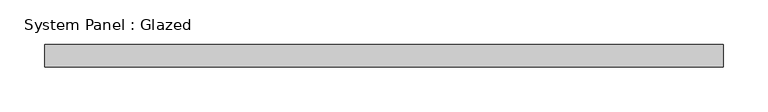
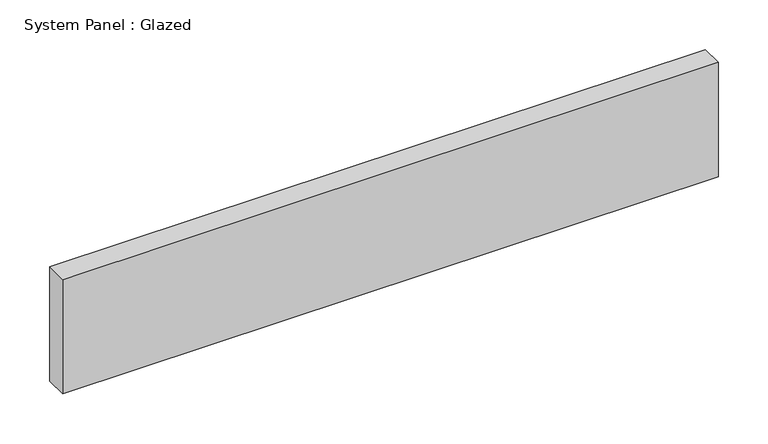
"""IFC4 building model written with IfcOpenShell, lengths in millimetres: plate geometry, System Panel : Glazed."""

from ifc_helpers import new_model, si_unit, origin, origin_with_axes, place, context, project, spatial, polyline, outline, extrude, source, transform, mapped, element, save


def system_panel_glazed_895e459d(model_context):
    return source(origin(), model_context, "Body", "SweptSolid", [
        extrude(outline(polyline([(379.4125, 19.05), (-379.4125, 19.05), (-379.4125, 44.45), (379.4125, 44.45), (379.4125, 19.05)])), origin_with_axes(), (0.0, 0.0, 1.0), 139.7),
    ])


if __name__ == "__main__":
    model = new_model("IFC4")
    model_context = context("Model", 3, world=origin())
    ifc_project = project(units=[si_unit("LENGTHUNIT", "METRE", prefix="MILLI")], contexts=[model_context])
    site = spatial("IfcSite", under=ifc_project)
    building = spatial("IfcBuilding", under=site)
    placement = place(None, origin())
    system_panel_glazed_shape = system_panel_glazed_895e459d(model_context)
    element("IfcPlate", 1, ObjectType="System Panel : Glazed", at=placement, inside=building, context=model_context, shape_type="MappedRepresentation", body=[
        mapped(system_panel_glazed_shape, transform((0.0, 0.0, 0.0), x_axis=(1.0, 0.0, 0.0), y_axis=(0.0, 1.0, 0.0), z_axis=(0.0, 0.0, 1.0))),
    ])
    save(model, "model.ifc")
